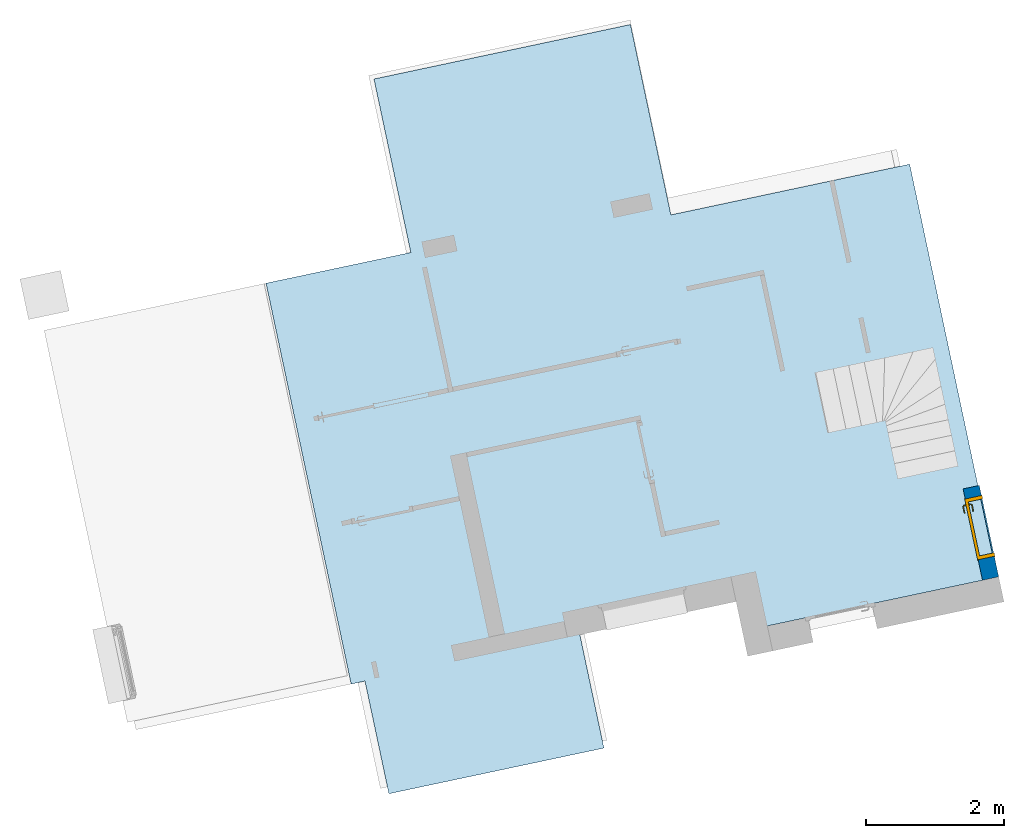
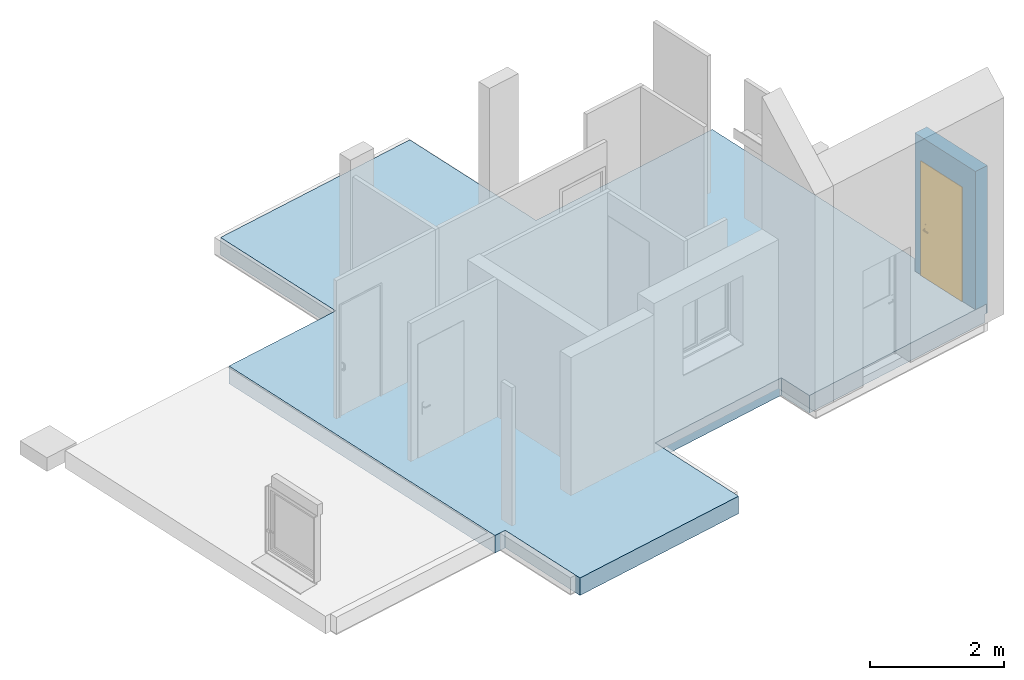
# One storey, part 6 of 11: 1 door, 1 slab, 1 wall, 1 opening.
"""IFC2X3 building model written with IfcOpenShell, lengths in centimetres."""

import ifcopenshell
import ifcopenshell.guid

model = None  # the IFC model being written
_history = None  # IfcOwnerHistory: only IFC2X3 demands one
_inside = {}  # id of a spatial element -> (the spatial element, [elements in it])
_under = {}  # id of a project, library or spatial element -> (it, [spatial elements below it])
_declared = {}  # id of a project -> (the project, [libraries it declares])
_typed = {}  # id of a type object -> (the type object, [elements of that type])
_made_of = {}  # id of a material, layer set ... -> (it, [elements and type objects made of it])


def new_model(schema):
    """Start an empty IFC model of exactly this schema.

    Asked for "IFC4X3", IfcOpenShell would pick the latest addendum, in which some entities
    have other attributes; the version numbers below select the first issue.
    IFC2X3 requires an IfcOwnerHistory on every rooted entity: one is made here for all.
    """
    global model, _history
    if schema == "IFC4X3":
        model = ifcopenshell.file(schema_version=(4, 3, 0, 0))
    else:
        model = ifcopenshell.file(schema=schema)
    _inside.clear()
    _under.clear()
    _declared.clear()
    _typed.clear()
    _made_of.clear()
    _history = None
    if model.schema == "IFC2X3":
        org = make("IfcOrganization", Name="unknown")
        user = make(
            "IfcPersonAndOrganization",
            ThePerson=make("IfcPerson", FamilyName="unknown"),
            TheOrganization=org,
        )
        app = make(
            "IfcApplication",
            ApplicationDeveloper=org,
            Version="unknown",
            ApplicationFullName="unknown",
            ApplicationIdentifier="unknown",
        )
        _history = make(
            "IfcOwnerHistory",
            OwningUser=user,
            OwningApplication=app,
            ChangeAction="ADDED",
            CreationDate=0,
        )
    return model


def make(cls, **values):
    """One entity of the class cls with the attributes given. An attribute that is None is left unset."""
    return model.create_entity(
        cls, **{name: value for name, value in values.items() if value is not None}
    )


def entity(cls, *values):
    """Any entity or typed value of the class cls, its attributes in the order of the schema. None: left unset."""
    e = model.create_entity(cls)
    for i, value in enumerate(values):
        if value is not None:
            e[i] = value
    return e


def rooted(cls, **values):
    """An entity with a GlobalId (a new one), such as an element, a storey or a relation."""
    return make(cls, GlobalId=ifcopenshell.guid.new(), OwnerHistory=_history, **values)


def si_unit(unit_type, name, prefix=None):
    """IfcSIUnit, for example si_unit("LENGTHUNIT", "METRE", prefix="MILLI")."""
    return make("IfcSIUnit", UnitType=unit_type, Prefix=prefix, Name=name)


def converted_unit(unit_type, name, factor, base, dimensions=None, offset=None):
    """IfcConversionBasedUnit, such as the inch: factor (a typed value) times the base unit."""
    return make(
        "IfcConversionBasedUnit"
        if offset is None
        else "IfcConversionBasedUnitWithOffset",
        ConversionOffset=offset,
        Dimensions=None
        if dimensions is None
        else entity("IfcDimensionalExponents", *dimensions),
        UnitType=unit_type,
        Name=name,
        ConversionFactor=make(
            "IfcMeasureWithUnit", ValueComponent=factor, UnitComponent=base
        ),
    )


def derived_unit(unit_type, elements):
    """IfcDerivedUnit: a product of units, each with its exponent."""
    return make(
        "IfcDerivedUnit",
        Elements=[
            make("IfcDerivedUnitElement", Unit=unit, Exponent=power)
            for unit, power in elements
        ],
        UnitType=unit_type,
    )


def assignment(units):
    """IfcUnitAssignment: the units of a project."""
    return None if units is None else make("IfcUnitAssignment", Units=units)


def point(xyz):
    """IfcCartesianPoint."""
    return None if xyz is None else make("IfcCartesianPoint", Coordinates=xyz)


def direction(xyz):
    """IfcDirection."""
    return None if xyz is None else make("IfcDirection", DirectionRatios=xyz)


def frame(location, z_axis=None, x_axis=None):
    """IfcAxis2Placement3D, a coordinate frame: its origin and axes. An axis left out is left unset."""
    return make(
        "IfcAxis2Placement3D",
        Location=point(location),
        Axis=direction(z_axis),
        RefDirection=direction(x_axis),
    )


def frame_2d(location, x_axis=None):
    """IfcAxis2Placement2D, a coordinate frame in the plane: its origin and x axis."""
    return make(
        "IfcAxis2Placement2D", Location=point(location), RefDirection=direction(x_axis)
    )


def origin():
    """The frame at (0, 0, 0) with its axes left unset."""
    return frame((0.0, 0.0, 0.0))


def place(relative_to, where):
    """IfcLocalPlacement: puts the frame where relative to a parent placement (None: the world)."""
    return make(
        "IfcLocalPlacement", PlacementRelTo=relative_to, RelativePlacement=where
    )


def context(
    kind, dimensions, precision=None, world=None, true_north=None, identifier=None
):
    """IfcGeometricRepresentationContext, for example the 3D "Model" context."""
    return make(
        "IfcGeometricRepresentationContext",
        ContextIdentifier=identifier,
        ContextType=kind,
        CoordinateSpaceDimension=dimensions,
        Precision=precision,
        WorldCoordinateSystem=world,
        TrueNorth=true_north,
    )


def subcontext(parent, identifier, kind, view, scale=None):
    """IfcGeometricRepresentationSubContext, for example "Body" below "Model"."""
    return make(
        "IfcGeometricRepresentationSubContext",
        ContextIdentifier=identifier,
        ContextType=kind,
        ParentContext=parent,
        TargetScale=scale,
        TargetView=view,
    )


def project(units=None, contexts=None):
    """IfcProject with its units and contexts."""
    return rooted(
        "IfcProject",
        Name="project",
        RepresentationContexts=contexts,
        UnitsInContext=assignment(units),
    )


def spatial(cls, under=None, at=None, **own):
    """A site, building, storey or space (cls), placed at a placement, below another one or the project."""
    s = rooted(cls, ObjectPlacement=at, **own)
    if under is not None:
        _under.setdefault(under.id(), (under, []))[1].append(s)
    return s


def profile(cls, at=None, kind="AREA", **sizes):
    """A parametric profile (cls). Its sizes go by their IFC names, for example OverallWidth=200.0."""
    return make(cls, ProfileType=kind, Position=at, **sizes)


def rectangle(**sizes):
    """IfcRectangleProfileDef."""
    return profile("IfcRectangleProfileDef", **sizes)


def extrude(swept, where, along, depth):
    """IfcExtrudedAreaSolid: the profile swept, set in the frame where, extruded along a direction by depth."""
    return make(
        "IfcExtrudedAreaSolid",
        SweptArea=swept,
        Position=where,
        ExtrudedDirection=direction(along),
        Depth=depth,
    )


def faces_of(points, faces, orient=None, outer=None):
    """IfcFace entities. A face is a list of loops; a loop is a list of indices into points, from 0.

    orient and outer hold one flag for each loop. By default every Orientation is true, the
    first loop of a face is its IfcFaceOuterBound and the others are IfcFaceBound.
    """
    made = []
    for i, loops in enumerate(faces):
        bounds = []
        for j, loop in enumerate(loops):
            is_outer = j == 0 if outer is None else outer[i][j]
            bounds.append(
                make(
                    "IfcFaceOuterBound" if is_outer else "IfcFaceBound",
                    Bound=make("IfcPolyLoop", Polygon=[points[k] for k in loop]),
                    Orientation=True if orient is None else orient[i][j],
                )
            )
        made.append(make("IfcFace", Bounds=bounds))
    return made


def faceted_brep(points, faces, orient=None, outer=None, voids=None):
    """IfcFacetedBrep: a solid bounded by flat faces; with voids (closed shells), ...WithVoids."""
    shared = [point(p) for p in points]
    hull = make("IfcClosedShell", CfsFaces=faces_of(shared, faces, orient, outer))
    if voids is None:
        return make("IfcFacetedBrep", Outer=hull)
    return make(
        "IfcFacetedBrepWithVoids",
        Outer=hull,
        Voids=[
            make(cls, CfsFaces=faces_of(shared, fs, o, b)) for cls, fs, o, b in voids
        ],
    )


def shape(context_of_items, identifier, shape_type, items):
    """IfcShapeRepresentation: the items that make up one representation, for example the "Body"."""
    return make(
        "IfcShapeRepresentation",
        ContextOfItems=context_of_items,
        RepresentationIdentifier=identifier,
        RepresentationType=shape_type,
        Items=items,
    )


def source(mapping_origin, context_of_items, identifier, shape_type, items):
    """IfcRepresentationMap: a shape defined once, which mapped items show again and again."""
    return make(
        "IfcRepresentationMap",
        MappingOrigin=mapping_origin,
        MappedRepresentation=shape(context_of_items, identifier, shape_type, items),
    )


def transform(
    local_origin,
    x_axis=None,
    y_axis=None,
    z_axis=None,
    scale=None,
    scale2=None,
    scale3=None,
    uniform=True,
):
    """IfcCartesianTransformationOperator3D, or its non-uniform kind. x_axis, y_axis, z_axis: its Axis1, 2, 3."""
    if uniform:
        return make(
            "IfcCartesianTransformationOperator3D",
            Axis1=direction(x_axis),
            Axis2=direction(y_axis),
            LocalOrigin=point(local_origin),
            Scale=scale,
            Axis3=direction(z_axis),
        )
    return make(
        "IfcCartesianTransformationOperator3DnonUniform",
        Axis1=direction(x_axis),
        Axis2=direction(y_axis),
        LocalOrigin=point(local_origin),
        Scale=scale,
        Axis3=direction(z_axis),
        Scale2=scale2,
        Scale3=scale3,
    )


def mapped(mapping_source, mapping_target):
    """IfcMappedItem: shows the shape of a source again, moved by a transform."""
    return make(
        "IfcMappedItem", MappingSource=mapping_source, MappingTarget=mapping_target
    )


def material(Name=None, Category=None):
    """IfcMaterial."""
    return make("IfcMaterial", Name=Name, Category=Category)


def material_list(materials):
    """IfcMaterialList."""
    return make("IfcMaterialList", Materials=materials)


def layer(
    of_material, thickness, ventilated=None, Name=None, Category=None, Priority=None
):
    """IfcMaterialLayer: one layer of a wall or slab, of a material (None: an air gap)."""
    return make(
        "IfcMaterialLayer",
        Material=of_material,
        LayerThickness=thickness,
        IsVentilated=ventilated,
        Name=Name,
        Category=Category,
        Priority=Priority,
    )


def layer_set(layers, Name=None):
    """IfcMaterialLayerSet."""
    return make("IfcMaterialLayerSet", MaterialLayers=layers, LayerSetName=Name)


def made_of(thing, what):
    """Note that an element or type object is made of a material, layer set ...; save() writes the relation."""
    if what is not None:
        _made_of.setdefault(what.id(), (what, []))[1].append(thing)
    return thing


def type_object(cls, material=None, **own):
    """A type object (cls), such as IfcWallType, which elements share."""
    return made_of(rooted(cls, **own), material)


def type_shapes(of_type, sources):
    """Give a type object the sources (RepresentationMaps) that its elements show as mapped items."""
    of_type.RepresentationMaps = sources


def element(
    cls,
    number,
    at=None,
    inside=None,
    cuts=None,
    type_object=None,
    material=None,
    context=None,
    identifier="Body",
    shape_type=None,
    held_by="IfcProductDefinitionShape",
    body=None,
    shapes=None,
    **own,
):
    """One element of the class cls, such as IfcWall. Its Tag is "e" and its number.

    at: its placement. inside: the storey or other place that contains it. cuts: it is an
    opening in that element (IfcRelVoidsElement). A single representation is given by context,
    identifier, shape_type and body (its items); several are given by shapes. held_by: the class
    of the entity that holds the representations. save() writes the other relations.
    """
    e = rooted(cls, Tag="e%d" % number, ObjectPlacement=at, **own)
    if body is not None:
        shapes = [shape(context, identifier, shape_type, body)]
    if shapes is not None:
        e.Representation = make(held_by, Representations=shapes)
    if inside is not None:
        _inside.setdefault(inside.id(), (inside, []))[1].append(e)
    if cuts is not None:
        rooted(
            "IfcRelVoidsElement", RelatingBuildingElement=cuts, RelatedOpeningElement=e
        )
    if type_object is not None:
        _typed.setdefault(type_object.id(), (type_object, []))[1].append(e)
    return made_of(e, material)


def fill(opening, filler):
    """IfcRelFillsElement: the door or window that sits in an opening."""
    return rooted(
        "IfcRelFillsElement",
        RelatingOpeningElement=opening,
        RelatedBuildingElement=filler,
    )


def aggregate(whole, parts):
    """IfcRelAggregates: a whole, such as a stair, and the parts it consists of."""
    return rooted("IfcRelAggregates", RelatingObject=whole, RelatedObjects=parts)


def save(model, path):
    """Write the relations noted so far, then the file.

    IfcRelAggregates (storeys below a building ...), IfcRelContainedInSpatialStructure (elements
    in a storey), IfcRelDefinesByType, IfcRelAssociatesMaterial and IfcRelDeclares: one each for
    every whole, place, type object, material and project.
    """
    for whole, parts in _under.values():
        aggregate(whole, parts)
    for where, things in _inside.values():
        rooted(
            "IfcRelContainedInSpatialStructure",
            RelatedElements=things,
            RelatingStructure=where,
        )
    for kind, things in _typed.values():
        rooted("IfcRelDefinesByType", RelatedObjects=things, RelatingType=kind)
    for what, things in _made_of.values():
        rooted("IfcRelAssociatesMaterial", RelatedObjects=things, RelatingMaterial=what)
    for by, libraries in _declared.values():
        rooted("IfcRelDeclares", RelatingContext=by, RelatedDefinitions=libraries)
    model.write(path)


model = new_model("IFC2X3")

# Units and contexts
model_context = context("Model", 3, precision=0.001, world=origin(), true_north=direction((6.12303176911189e-17, 1.0)))
body_context = subcontext(model_context, "Body", "Model", "MODEL_VIEW")
ifc_project = project(units=[si_unit("LENGTHUNIT", "METRE", prefix="CENTI"), si_unit("AREAUNIT", "SQUARE_METRE"), si_unit("VOLUMEUNIT", "CUBIC_METRE"), converted_unit("PLANEANGLEUNIT", "DEGREE", entity("IfcRatioMeasure", 0.0174532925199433), si_unit("PLANEANGLEUNIT", "RADIAN"), dimensions=[0, 0, 0, 0, 0, 0, 0]), si_unit("MASSUNIT", "GRAM", prefix="KILO"), derived_unit("MASSDENSITYUNIT", [(si_unit("MASSUNIT", "GRAM", prefix="KILO"), 1), (si_unit("LENGTHUNIT", "METRE"), -3)]), derived_unit("IONCONCENTRATIONUNIT", [(si_unit("MASSUNIT", "GRAM", prefix="KILO"), 1), (si_unit("LENGTHUNIT", "METRE"), -3)]), derived_unit("MOMENTOFINERTIAUNIT", [(si_unit("LENGTHUNIT", "METRE"), 4)]), si_unit("TIMEUNIT", "SECOND"), si_unit("FREQUENCYUNIT", "HERTZ"), si_unit("THERMODYNAMICTEMPERATUREUNIT", "DEGREE_CELSIUS"), derived_unit("THERMALTRANSMITTANCEUNIT", [(si_unit("MASSUNIT", "GRAM", prefix="KILO"), 1), (si_unit("THERMODYNAMICTEMPERATUREUNIT", "KELVIN"), -1), (si_unit("TIMEUNIT", "SECOND"), -3)]), derived_unit("THERMALCONDUCTANCEUNIT", [(si_unit("MASSUNIT", "GRAM", prefix="KILO"), 1), (si_unit("THERMODYNAMICTEMPERATUREUNIT", "KELVIN"), -1), (si_unit("TIMEUNIT", "SECOND"), -3), (si_unit("LENGTHUNIT", "METRE"), 1)]), derived_unit("VOLUMETRICFLOWRATEUNIT", [(si_unit("LENGTHUNIT", "METRE"), 3), (si_unit("TIMEUNIT", "SECOND"), -1)]), derived_unit("MASSFLOWRATEUNIT", [(si_unit("MASSUNIT", "GRAM", prefix="KILO"), 1), (si_unit("TIMEUNIT", "SECOND"), -1)]), derived_unit("ROTATIONALFREQUENCYUNIT", [(si_unit("TIMEUNIT", "SECOND"), -1)]), si_unit("ELECTRICCURRENTUNIT", "AMPERE"), si_unit("ELECTRICVOLTAGEUNIT", "VOLT"), si_unit("POWERUNIT", "WATT"), si_unit("FORCEUNIT", "NEWTON", prefix="KILO"), si_unit("ILLUMINANCEUNIT", "LUX"), si_unit("LUMINOUSFLUXUNIT", "LUMEN"), si_unit("LUMINOUSINTENSITYUNIT", "CANDELA"), derived_unit("USERDEFINED", [(si_unit("MASSUNIT", "GRAM", prefix="KILO"), -1), (si_unit("LENGTHUNIT", "METRE"), -2), (si_unit("TIMEUNIT", "SECOND"), 3), (si_unit("LUMINOUSFLUXUNIT", "LUMEN"), 1)]), derived_unit("USERDEFINED", [(si_unit("MASSUNIT", "GRAM", prefix="KILO"), 1), (si_unit("TIMEUNIT", "SECOND"), -3), (si_unit("LENGTHUNIT", "METRE"), 3), (si_unit("ELECTRICCURRENTUNIT", "AMPERE"), -2)]), derived_unit("SOUNDPOWERUNIT", [(si_unit("MASSUNIT", "GRAM", prefix="KILO"), 1), (si_unit("TIMEUNIT", "SECOND"), -3), (si_unit("LENGTHUNIT", "METRE"), 2)]), derived_unit("SOUNDPRESSUREUNIT", [(si_unit("MASSUNIT", "GRAM", prefix="KILO"), 1), (si_unit("LENGTHUNIT", "METRE"), -1), (si_unit("TIMEUNIT", "SECOND"), -2)]), derived_unit("LINEARVELOCITYUNIT", [(si_unit("LENGTHUNIT", "METRE"), 1), (si_unit("TIMEUNIT", "SECOND"), -1)]), si_unit("PRESSUREUNIT", "PASCAL"), derived_unit("USERDEFINED", [(si_unit("MASSUNIT", "GRAM", prefix="KILO"), 1), (si_unit("LENGTHUNIT", "METRE"), -2), (si_unit("TIMEUNIT", "SECOND"), -2)]), derived_unit("LINEARFORCEUNIT", [(si_unit("MASSUNIT", "GRAM", prefix="KILO"), 1), (si_unit("TIMEUNIT", "SECOND"), -2)]), derived_unit("PLANARFORCEUNIT", [(si_unit("MASSUNIT", "GRAM", prefix="KILO"), 1), (si_unit("LENGTHUNIT", "METRE"), -1), (si_unit("TIMEUNIT", "SECOND"), -2)]), derived_unit("SPECIFICHEATCAPACITYUNIT", [(si_unit("THERMODYNAMICTEMPERATUREUNIT", "KELVIN"), -1), (si_unit("LENGTHUNIT", "METRE"), 2), (si_unit("TIMEUNIT", "SECOND"), -2)]), derived_unit("HEATINGVALUEUNIT", [(si_unit("LENGTHUNIT", "METRE"), 2), (si_unit("TIMEUNIT", "SECOND"), -2)]), derived_unit("VAPORPERMEABILITYUNIT", [(si_unit("LENGTHUNIT", "METRE"), -1), (si_unit("TIMEUNIT", "SECOND"), 1)]), derived_unit("DYNAMICVISCOSITYUNIT", [(si_unit("MASSUNIT", "GRAM", prefix="KILO"), 1), (si_unit("TIMEUNIT", "SECOND"), -1), (si_unit("LENGTHUNIT", "METRE"), -1)]), derived_unit("THERMALEXPANSIONCOEFFICIENTUNIT", [(si_unit("THERMODYNAMICTEMPERATUREUNIT", "KELVIN"), -1)]), derived_unit("MODULUSOFELASTICITYUNIT", [(si_unit("MASSUNIT", "GRAM", prefix="KILO"), 1), (si_unit("LENGTHUNIT", "METRE"), -1), (si_unit("TIMEUNIT", "SECOND"), -2)]), derived_unit("ISOTHERMALMOISTURECAPACITYUNIT", [(si_unit("LENGTHUNIT", "METRE"), 3), (si_unit("MASSUNIT", "GRAM", prefix="KILO"), -1)]), derived_unit("MOISTUREDIFFUSIVITYUNIT", [(si_unit("TIMEUNIT", "SECOND"), -1), (si_unit("LENGTHUNIT", "METRE"), 2)])], contexts=[model_context])

# Site, building, storey
site_placement = place(None, frame((14083.8920177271, -6853.25409548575, 6900.0), z_axis=(0.0, 0.0, 1.0), x_axis=(0.978188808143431, 0.207717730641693, 0.0)))
site = spatial("IfcSite", under=ifc_project, at=site_placement, Name="Surface", CompositionType="ELEMENT")
building_placement = place(site_placement, origin())
building = spatial("IfcBuilding", under=site, at=building_placement, CompositionType="ELEMENT")
storey_placement = place(building_placement, frame((0.0, 0.0, 17.0)))
storey = spatial("IfcBuildingStorey", under=building, at=storey_placement, Name="Rez de chaussée", CompositionType="ELEMENT", Elevation=17.0000000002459)

# Slab
ifc_material_1 = material(Name="Dalle, carrelage 15 x 15")
ifc_material_2 = material(Name="__ ISOLANT (sous dalle)")
ifc_material_3 = material(Name="<Unnamed>")
ifc_material_4 = material(Name="Béton, précoulé")
ifc_material_list = material_list([ifc_material_1, ifc_material_2, ifc_material_3, ifc_material_4])
ifc_layer_1 = layer(ifc_material_1, 2.0)
ifc_layer_2 = layer(ifc_material_2, 8.0)
ifc_layer_3 = layer(ifc_material_3, 2.0)
ifc_layer_4 = layer(ifc_material_4, 20.0)
ifc_layer_set_1 = layer_set([ifc_layer_1, ifc_layer_2, ifc_layer_3, ifc_layer_4], Name="Sol:*BETON 32 (20 + Revêtement sur chape)")
slab_type = type_object("IfcSlabType", Name="Sol:*BETON 32 (20 + Revêtement sur chape)", PredefinedType="FLOOR", material=ifc_layer_set_1)
slab_placement = place(storey_placement, origin())
element("IfcSlab", 1, at=slab_placement, inside=storey, type_object=slab_type, material=ifc_material_list, Name="Sol:*BETON 32 (20 + Revêtement sur chape)", ObjectType="Sol:*BETON 32 (20 + Revêtement sur chape)", PredefinedType="FLOOR", context=body_context, shape_type="Brep", body=[
    faceted_brep([(-7141.9551432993, 14801.6724778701, -32.0), (-7141.9551432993, 14864.1724778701, -32.0), (-7395.59727892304, 14864.1724778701, -32.0), (-7395.59727892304, 14712.6724778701, -32.0), (-7395.59727892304, 14677.6324526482, -32.0), (-7714.4551432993, 14677.6324526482, -32.0), (-7714.4551432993, 14712.6724778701, -32.0), (-7714.4551432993, 14844.6724778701, -32.0), (-7734.95514329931, 14844.6724778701, -32.0), (-7734.9551432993, 15138.6724778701, -32.0), (-7734.9551432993, 15413.9391445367, -32.0), (-7734.9551432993, 15438.9391445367, -32.0), (-7520.29714756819, 15438.9391445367, -32.0), (-7520.29714756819, 15450.9391445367, -32.0), (-7520.29714756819, 15696.1673447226, -32.0), (-7139.9551432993, 15696.1673447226, -32.0), (-7139.9551432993, 15413.9391445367, -32.0), (-6789.4551432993, 15413.9391445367, -32.0), (-6789.4551432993, 14801.6724778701, -32.0), (-6785.9551432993, 15413.9391445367, 0.0), (-6807.9551432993, 15413.9391445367, 0.0), (-7139.9551432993, 15413.9391445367, 0.0), (-7139.9551432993, 15696.1673447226, 0.0), (-7520.29714756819, 15696.1673447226, 0.0), (-7520.29714756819, 15450.9391445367, 0.0), (-7520.29714756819, 15438.9391445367, 0.0), (-7734.9551432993, 15438.9391445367, 0.0), (-7734.9551432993, 15413.9391445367, 0.0), (-7734.9551432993, 15168.6673447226, 0.0), (-7734.9551432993, 15138.6724778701, 0.0), (-7734.95514329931, 14844.6724778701, 0.0), (-7714.4551432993, 14844.6724778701, 0.0), (-7714.4551432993, 14712.6724778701, 0.0), (-7714.4551432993, 14677.6324526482, 0.0), (-7395.59727892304, 14677.6324526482, 0.0), (-7395.59727892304, 14712.6724778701, 0.0), (-7395.59727892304, 14864.1724778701, 0.0), (-7141.9551432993, 14864.1724778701, 0.0), (-7141.9551432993, 14801.6724778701, 0.0), (-6807.9551432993, 14801.6724778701, 0.0), (-6785.9551432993, 14801.6724778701, 0.0), (-6785.9551432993, 14832.1724778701, 0.0), (-6785.9551432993, 14922.1724778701, 0.0), (-6785.9551432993, 14937.1724778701, 0.0), (-6785.9551432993, 15214.302414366, 0.0), (-6785.9551432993, 15314.302414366, 0.0), (-6785.9551432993, 15413.9391445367, -17.0), (-6789.4551432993, 15413.9391445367, -17.0), (-6785.9551432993, 14801.6724778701, -17.0), (-6785.9551432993, 14937.1724778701, -17.0), (-6789.4551432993, 14801.6724778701, -17.0)], [[[0, 1, 2, 3, 4, 5, 6, 7, 8, 9, 10, 11, 12, 13, 14, 15, 16, 17, 18]], [[19, 20, 21, 22, 23, 24, 25, 26, 27, 28, 29, 30, 31, 32, 33, 34, 35, 36, 37, 38, 39, 40, 41, 42, 43, 44, 45]], [[21, 20, 19, 46, 47, 17, 16]], [[19, 45, 44, 43, 42, 41, 40, 48, 49, 46]], [[40, 39, 38, 0, 18, 50, 48]], [[1, 0, 38, 37]], [[50, 47, 46, 49, 48]], [[2, 1, 37, 36]], [[4, 3, 2, 36, 35, 34]], [[5, 4, 34, 33]], [[7, 6, 5, 33, 32, 31]], [[8, 7, 31, 30]], [[11, 10, 9, 8, 30, 29, 28, 27, 26]], [[12, 11, 26, 25]], [[14, 13, 12, 25, 24, 23]], [[15, 14, 23, 22]], [[16, 15, 22, 21]], [[47, 50, 18, 17]]]),
])

# Wall, opening, door
ifc_material_5 = material(Name="__ ENDUIT_Blanc")
ifc_layer_5 = layer(ifc_material_5, 2.0)
ifc_layer_6 = layer(ifc_material_4, 20.0)
ifc_layer_7 = layer(ifc_material_5, 2.0)
ifc_layer_set_2 = layer_set([ifc_layer_5, ifc_layer_6, ifc_layer_7], Name="Mur de base:*BRIQUE 24 (20 + INT 2 + EXT 2) (enduit 2 faces)")
wall_type = type_object("IfcWallType", Name="Mur de base:*BRIQUE 24 (20 + INT 2 + EXT 2) (enduit 2 faces)", PredefinedType="STANDARD", material=ifc_layer_set_2)
wall_placement = place(storey_placement, frame((-6795.9551432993, 14937.1724778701, -17.0), z_axis=(0.0, 0.0, 1.0), x_axis=(0.0, -1.0, 0.0)))
wall = element("IfcWall", 2, at=wall_placement, inside=storey, type_object=wall_type, Name="Mur de base:*BRIQUE 24 (20 + INT 2 + EXT 2) (enduit 2 faces)", ObjectType="Mur de base:*BRIQUE 24 (20 + INT 2 + EXT 2) (enduit 2 faces)", context=body_context, shape_type="Brep", body=[
    faceted_brep([(105.0, -12.0, 224.500000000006), (105.0, -12.0, 17.0), (135.500000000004, -12.0, 17.0), (135.500000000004, -12.0, 269.0), (0.0, -12.0, 269.0), (0.0, -12.0, 17.0), (15.0, -12.0, 17.0), (15.0, -12.0, 224.500000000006), (135.500000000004, 12.0, 0.0), (0.0, 12.0, 0.0), (0.0, 12.0, 269.0), (135.500000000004, 12.0, 269.0), (105.0, 12.0, 17.0), (105.0, 12.0, 224.500000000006), (15.0, 12.0, 224.500000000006), (15.0, 12.0, 17.0), (135.500000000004, 10.0, 0.0), (0.0, 10.0, 0.0), (135.500000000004, 11.5180917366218, 269.0), (135.500000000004, 10.0, 17.0), (0.0, 10.0, 17.0), (105.0, 10.0, 17.0), (15.0, 10.0, 17.0)], [[[0, 1, 2, 3, 4, 5, 6, 7]], [[8, 9, 10, 11], [12, 13, 14, 15]], [[9, 8, 16, 17]], [[18, 3, 2, 19, 16, 8, 11]], [[4, 10, 9, 17, 20, 5]], [[0, 13, 12, 21, 1]], [[13, 0, 7, 14]], [[14, 7, 6, 22, 15]], [[12, 15, 22, 21]], [[4, 3, 18, 11, 10]], [[21, 19, 2, 1]], [[19, 21, 22, 20, 17, 16]], [[20, 22, 6, 5]]]),
])
opening_placement = place(wall_placement, frame((105.0, 12.0, 17.0)))
opening = element("IfcOpeningElement", 3, at=opening_placement, cuts=wall, Name="*Porte_alveolaire:Pp 83 x 204:1", ObjectType="Opening", context=body_context, shape_type="SweptSolid", body=[
    extrude(rectangle(XDim=207.5, YDim=89.9999999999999, at=frame_2d((103.75, 45.0), x_axis=(1.0, 0.0))), frame((0.0, 0.0, 0.0), z_axis=(0.0, -1.0, 0.0), x_axis=(0.0, 0.0, 1.0)), (0.0, 0.0, 1.0), 24.0),
])
door_style = type_object("IfcDoorStyle", Name="*Porte_alveolaire:Pp 83 x 204", ConstructionType="NOTDEFINED", OperationType="NOTDEFINED", ParameterTakesPrecedence=False, Sizeable=False, material=ifc_material_3)
shared_shape = source(origin(), body_context, "Body", "Brep", [
    faceted_brep([(8.7974701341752, 3.69999999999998, 89.2219559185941), (9.20252986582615, 3.69999999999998, 89.221955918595), (9.60000000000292, 3.69999999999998, 89.3000000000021), (9.60000000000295, 3.69999999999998, 90.699999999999), (9.20252986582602, 3.69999999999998, 90.7780440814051), (8.79747013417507, 3.69999999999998, 90.7780440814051), (8.39999999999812, 3.69999999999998, 90.699999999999), (8.39999999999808, 3.69999999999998, 89.2999999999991), (9.60000000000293, 5.94852045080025, 89.3000000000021), (9.60000000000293, 5.94852045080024, 90.699999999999), (9.20252986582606, 6.11315797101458, 90.7780440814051), (10.5838906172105, 7.49451872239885, 90.7780440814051), (10.4161093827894, 7.89957845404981, 90.7780440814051), (8.7974701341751, 6.28093920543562, 90.7780440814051), (19.5684749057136, 6.84673156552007, 90.7780440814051), (19.8548953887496, 7.1331520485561, 90.7780440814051), (19.0884689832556, 7.8995784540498, 90.7780440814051), (18.9206877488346, 7.49451872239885, 90.7780440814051), (8.39999999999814, 6.44557672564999, 90.699999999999), (8.39999999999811, 6.44557672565, 89.2999999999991), (8.7974701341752, 6.28093920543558, 89.2219559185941), (10.4161093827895, 7.89957845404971, 89.2219559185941), (10.5838906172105, 7.49451872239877, 89.221955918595), (9.20252986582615, 6.11315797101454, 89.221955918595), (19.8548953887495, 7.133152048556, 89.221955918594), (19.5684749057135, 6.84673156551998, 89.221955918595), (18.9206877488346, 7.49451872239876, 89.221955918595), (19.0884689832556, 7.89957845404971, 89.221955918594), (10.7485281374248, 7.09704858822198, 89.3000000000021), (10.7485281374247, 7.09704858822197, 90.699999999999), (10.2514718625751, 8.29704858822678, 90.699999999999), (10.2514718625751, 8.2970485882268, 89.2999999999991), (14.7522879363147, 7.09704858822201, 89.300000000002), (18.7560502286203, 7.09704858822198, 89.300000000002), (18.7560502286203, 7.09704858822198, 90.699999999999), (14.7522891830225, 7.09704858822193, 90.699999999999), (14.7522891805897, 7.71249275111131, 90.7878116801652), (19.25310650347, 8.29704858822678, 90.699999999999), (15.2600577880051, 8.29704858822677, 90.699999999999), (19.25310650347, 8.2970485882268, 89.2999999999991), (14.2445205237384, 8.29704858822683, 89.2999999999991), (14.7522892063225, 7.71249274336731, 89.2121883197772), (19.287421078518, 6.56567773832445, 89.300000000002), (20.1359492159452, 7.41420587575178, 89.2999999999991), (20.1359492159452, 7.41420587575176, 90.699999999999), (19.287421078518, 6.56567773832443, 90.699999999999)], [[[0, 1, 2, 3, 4, 5, 6, 7]], [[3, 2, 8, 9]], [[9, 10, 4, 3]], [[10, 11, 12, 13, 5, 4]], [[14, 15, 16, 17]], [[13, 18, 6, 5]], [[7, 6, 18, 19]], [[19, 20, 0, 7]], [[20, 21, 22, 23, 1, 0]], [[24, 25, 26, 27]], [[23, 8, 2, 1]], [[9, 8, 28, 29]], [[29, 11, 10, 9]], [[12, 30, 18, 13]], [[19, 18, 30, 31]], [[31, 21, 20, 19]], [[22, 28, 8, 23]], [[28, 32, 33, 34, 35, 29]], [[11, 35, 36]], [[16, 37, 38]], [[30, 12, 38]], [[38, 12, 36]], [[36, 35, 17]], [[17, 16, 36]], [[35, 11, 29]], [[34, 17, 35]], [[11, 36, 12]], [[38, 36, 16]], [[31, 30, 38, 37, 39, 40]], [[40, 41, 21]], [[41, 40, 27]], [[21, 31, 40]], [[39, 27, 40]], [[41, 32, 22]], [[22, 21, 41]], [[26, 32, 41]], [[28, 22, 32]], [[32, 26, 33]], [[26, 41, 27]], [[42, 25, 24, 43, 44, 15, 14, 45]], [[34, 33, 42, 45]], [[45, 14, 17, 34]], [[15, 44, 37, 16]], [[39, 37, 44, 43]], [[43, 24, 27, 39]], [[25, 42, 33, 26]]]),
    faceted_brep([(8.79747013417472, -1.30000000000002, 90.7780440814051), (9.20252986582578, -1.30000000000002, 90.7780440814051), (9.60000000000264, -1.30000000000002, 90.6999999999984), (9.60000000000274, -1.30000000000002, 89.3000000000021), (9.20252986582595, -1.30000000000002, 89.221955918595), (8.79747013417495, -1.30000000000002, 89.221955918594), (8.39999999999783, -1.30000000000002, 89.2999999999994), (8.39999999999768, -1.30000000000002, 90.699999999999), (8.39999999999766, -4.06509507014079, 90.6999999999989), (8.79747013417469, -3.9004575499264, 90.7780440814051), (10.402358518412, -5.50534593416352, 90.7780440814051), (10.570139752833, -5.10028620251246, 90.7780440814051), (9.20252986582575, -3.73267631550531, 90.7780440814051), (19.852181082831, -4.73891952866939, 90.778044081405), (19.5657605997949, -4.45249904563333, 90.778044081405), (18.9179734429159, -5.10028620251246, 90.778044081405), (19.085754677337, -5.50534593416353, 90.778044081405), (9.60000000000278, -3.56803879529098, 90.699999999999), (9.60000000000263, -3.56803879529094, 89.3000000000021), (9.20252986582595, -3.73267631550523, 89.221955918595), (10.5701397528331, -5.10028620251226, 89.221955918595), (10.4023585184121, -5.50534593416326, 89.221955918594), (8.79747013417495, -3.90045754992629, 89.221955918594), (19.5657605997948, -4.45249904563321, 89.221955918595), (19.8521810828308, -4.73891952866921, 89.221955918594), (19.0857546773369, -5.50534593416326, 89.221955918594), (18.9179734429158, -5.10028620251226, 89.221955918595), (8.39999999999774, -4.06509507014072, 89.2999999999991), (10.2377209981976, -5.90281606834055, 90.6999999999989), (10.7347772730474, -4.70281606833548, 90.699999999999), (10.7347772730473, -4.70281606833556, 89.3000000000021), (10.2377209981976, -5.90281606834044, 89.2999999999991), (14.2307697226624, -5.90281606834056, 90.6999999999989), (14.7440566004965, -5.31828027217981, 90.7878115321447), (19.2503921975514, -5.90281606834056, 90.6999999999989), (14.7440565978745, -4.70281606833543, 90.699999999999), (18.7533359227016, -4.70281606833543, 90.6999999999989), (18.7533359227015, -4.70281606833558, 89.300000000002), (14.7440563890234, -4.70281606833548, 89.3000000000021), (14.7440565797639, -5.31828027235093, 89.2121884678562), (19.2503921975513, -5.90281606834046, 89.2999999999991), (15.2573436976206, -5.90281606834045, 89.2999999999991), (19.2847067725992, -4.17144521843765, 90.6999999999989), (20.1332349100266, -5.01997335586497, 90.6999999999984), (20.1332349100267, -5.019973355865, 89.2999999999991), (19.2847067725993, -4.17144521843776, 89.3000000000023)], [[[0, 1, 2, 3, 4, 5, 6, 7]], [[8, 9, 0, 7]], [[9, 10, 11, 12, 1, 0]], [[13, 14, 15, 16]], [[12, 17, 2, 1]], [[3, 2, 17, 18]], [[18, 19, 4, 3]], [[19, 20, 21, 22, 5, 4]], [[23, 24, 25, 26]], [[22, 27, 6, 5]], [[7, 6, 27, 8]], [[28, 10, 9, 8]], [[11, 29, 17, 12]], [[18, 17, 29, 30]], [[30, 20, 19, 18]], [[21, 31, 27, 22]], [[8, 27, 31, 28]], [[32, 33, 10]], [[33, 32, 16]], [[10, 28, 32]], [[34, 16, 32]], [[33, 35, 11]], [[11, 10, 33]], [[15, 35, 33]], [[29, 11, 35]], [[35, 15, 36]], [[15, 33, 16]], [[30, 29, 35, 36, 37, 38]], [[20, 38, 39]], [[25, 40, 41]], [[31, 21, 41]], [[41, 21, 39]], [[39, 38, 26]], [[26, 25, 39]], [[38, 20, 30]], [[37, 26, 38]], [[20, 39, 21]], [[41, 39, 25]], [[28, 31, 41, 40, 34, 32]], [[42, 14, 13, 43, 44, 24, 23, 45]], [[43, 13, 16, 34]], [[14, 42, 36, 15]], [[37, 36, 42, 45]], [[45, 23, 26, 37]], [[24, 44, 40, 25]], [[34, 40, 44, 43]]]),
    faceted_brep([(10.03527618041, 3.19999999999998, 76.6003983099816), (11.0, 3.19999999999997, 77.0), (11.0, 3.19999999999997, 98.0), (10.03527618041, 3.19999999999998, 98.3996016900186), (9.0, 3.19999999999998, 98.5358983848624), (7.96472381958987, 3.19999999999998, 98.3996016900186), (7.0, 3.19999999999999, 98.0), (7.0, 3.19999999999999, 77.0), (7.96472381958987, 3.19999999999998, 76.6003983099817), (9.0, 3.19999999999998, 76.4641016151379), (10.03527618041, 3.69999999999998, 98.3996016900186), (11.0, 3.69999999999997, 98.0), (11.0, 3.69999999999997, 77.0), (10.03527618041, 3.69999999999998, 76.6003983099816), (9.0, 3.69999999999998, 76.4641016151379), (7.96472381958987, 3.69999999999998, 76.6003983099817), (7.0, 3.69999999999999, 77.0), (7.0, 3.69999999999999, 98.0), (7.96472381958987, 3.69999999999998, 98.3996016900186), (9.0, 3.69999999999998, 98.5358983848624)], [[[0, 1, 2, 3, 4, 5, 6, 7, 8, 9]], [[10, 11, 12, 13, 14, 15, 16, 17, 18, 19]], [[11, 10, 3, 2]], [[3, 10, 19, 4]], [[19, 18, 5, 4]], [[18, 17, 6, 5]], [[7, 6, 17, 16]], [[16, 15, 8, 7]], [[8, 15, 14, 9]], [[14, 13, 0, 9]], [[13, 12, 1, 0]], [[2, 1, 12, 11]]]),
    faceted_brep([(10.03527618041, -1.30000000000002, 76.6003983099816), (11.0, -1.30000000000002, 77.0), (11.0, -1.30000000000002, 98.0), (10.03527618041, -1.30000000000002, 98.3996016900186), (9.0, -1.30000000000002, 98.5358983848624), (7.96472381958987, -1.30000000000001, 98.3996016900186), (7.0, -1.30000000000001, 98.0), (7.0, -1.30000000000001, 77.0), (7.96472381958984, -1.30000000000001, 76.6003983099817), (9.0, -1.30000000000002, 76.4641016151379), (10.03527618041, -0.800000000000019, 98.3996016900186), (11.0, -0.800000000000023, 98.0), (11.0, -0.800000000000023, 77.0), (10.03527618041, -0.800000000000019, 76.6003983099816), (9.0, -0.800000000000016, 76.4641016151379), (7.96472381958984, -0.800000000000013, 76.6003983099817), (7.0, -0.800000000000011, 77.0), (7.0, -0.800000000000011, 98.0), (7.96472381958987, -0.800000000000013, 98.3996016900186), (9.0, -0.800000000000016, 98.5358983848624)], [[[0, 1, 2, 3, 4, 5, 6, 7, 8, 9]], [[10, 11, 12, 13, 14, 15, 16, 17, 18, 19]], [[16, 15, 8, 7]], [[8, 15, 14, 9]], [[14, 13, 0, 9]], [[13, 12, 1, 0]], [[2, 1, 12, 11]], [[11, 10, 3, 2]], [[3, 10, 19, 4]], [[19, 18, 5, 4]], [[18, 17, 6, 5]], [[7, 6, 17, 16]]]),
    faceted_brep([(0.0, 0.0, 0.0), (0.0, 24.0, 0.0), (-1.0, 24.0, 0.0), (-1.0, 24.8000000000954, 0.0), (5.0, 24.8000000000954, 0.0), (5.0, 3.2, 0.0), (3.49999999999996, 3.2, 0.0), (3.49999999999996, -0.800000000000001, 0.0), (-1.0, -0.800000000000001, 0.0), (-1.0, 0.0, 0.0), (0.0, 0.0, 207.5), (0.0, 24.0, 207.5), (90.0, 24.0, 207.5), (90.0, 24.0, 0.0), (91.0, 24.0, 0.0), (91.0, 24.0, 208.5), (-1.0, 24.0, 208.5), (-1.0, 24.8000000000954, 208.5), (91.0, 24.8000000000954, 208.5), (91.0, 24.8000000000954, 0.0), (85.0, 24.8000000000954, 0.0), (85.0, 24.8000000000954, 202.500000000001), (5.0, 24.8000000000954, 202.500000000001), (5.0, 3.2, 202.500000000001), (85.0, 3.2, 202.500000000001), (85.0, 3.2, 0.0), (86.5, 3.2, 0.0), (86.5, 3.2, 204.0), (3.49999999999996, 3.2, 204.0), (3.49999999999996, -0.800000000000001, 204.0), (86.5, -0.800000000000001, 204.0), (86.5, -0.800000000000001, 0.0), (91.0, -0.800000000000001, 0.0), (91.0, -0.800000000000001, 208.5), (-1.0, -0.800000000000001, 208.5), (-1.0, 0.0, 208.5), (91.0, 0.0, 208.5), (91.0, 0.0, 0.0), (90.0, 0.0, 0.0), (90.0, 0.0, 207.5)], [[[0, 1, 2, 3, 4, 5, 6, 7, 8, 9]], [[1, 0, 10, 11]], [[2, 1, 11, 12, 13, 14, 15, 16]], [[3, 2, 16, 17]], [[4, 3, 17, 18, 19, 20, 21, 22]], [[5, 4, 22, 23]], [[6, 5, 23, 24, 25, 26, 27, 28]], [[7, 6, 28, 29]], [[8, 7, 29, 30, 31, 32, 33, 34]], [[9, 8, 34, 35]], [[0, 9, 35, 36, 37, 38, 39, 10]], [[12, 39, 38, 13]], [[38, 37, 32, 31, 26, 25, 20, 19, 14, 13]], [[18, 15, 14, 19]], [[24, 21, 20, 25]], [[30, 27, 26, 31]], [[36, 33, 32, 37]], [[11, 10, 39, 12]], [[17, 16, 15, 18]], [[23, 22, 21, 24]], [[29, 28, 27, 30]], [[35, 34, 33, 36]]]),
    faceted_brep([(3.49999999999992, -0.799999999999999, 204.0), (3.49999999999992, -0.799999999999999, 0.0), (86.5, -0.799999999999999, 0.0), (86.5, -0.799999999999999, 204.0), (3.49999999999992, 3.2, 204.0), (86.5, 3.2, 204.0), (86.5, 3.2, 0.0), (3.49999999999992, 3.2, 0.0)], [[[0, 1, 2, 3]], [[4, 5, 6, 7]], [[1, 0, 4, 7]], [[2, 1, 7, 6]], [[3, 2, 6, 5]], [[0, 3, 5, 4]]]),
])
type_shapes(door_style, [shared_shape])
door_placement = place(opening_placement, frame((-90.0, -24.0, 0.0)))
door = element("IfcDoor", 4, at=door_placement, inside=storey, type_object=door_style, material=ifc_material_3, Name="*Porte_alveolaire:Pp 83 x 204", ObjectType="*Porte_alveolaire:Pp 83 x 204", OverallHeight=207.5, OverallWidth=90.0000000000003, context=body_context, shape_type="MappedRepresentation", body=[
    mapped(shared_shape, transform((0.0, 0.0, 0.0), scale=1.0)),
])
fill(opening, door)

save(model, "model.ifc")
